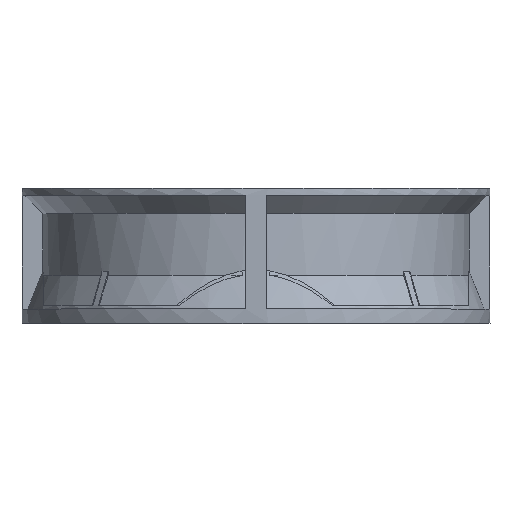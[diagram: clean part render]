
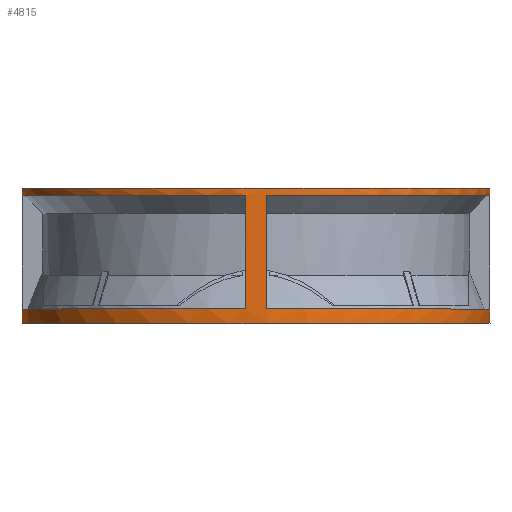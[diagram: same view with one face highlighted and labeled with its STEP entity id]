
A CAD part, top view. The second image highlights one B-rep face of the part: STEP entity #4815.
In plain terms, the highlighted cylindrical face has radius 66 mm (diameter 132 mm), a partial arc.
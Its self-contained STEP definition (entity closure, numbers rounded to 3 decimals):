
#136=CARTESIAN_POINT('',(0.,38.,0.));
#137=DIRECTION('',(0.,-1.,0.));
#138=DIRECTION('',(-0.506,0.,-0.863));
#139=AXIS2_PLACEMENT_3D('',#136,#137,#138);
#338=CARTESIAN_POINT('',(0.,0.,0.));
#339=DIRECTION('',(0.,1.,0.));
#340=DIRECTION('',(-0.572,0.,-0.821));
#341=AXIS2_PLACEMENT_3D('',#338,#339,#340);
#1009=CARTESIAN_POINT('',(0.,4.,0.));
#1010=DIRECTION('',(0.,-1.,0.));
#1011=DIRECTION('',(0.999,0.,0.045));
#1012=AXIS2_PLACEMENT_3D('',#1009,#1010,#1011);
#1023=DIRECTION('',(0.,1.,0.));
#1024=VECTOR('',#1023,32.);
#1025=CARTESIAN_POINT('',(65.932,4.,3.));
#1026=LINE('',#1025,#1024);
#1027=DIRECTION('',(0.,-1.,0.));
#1028=VECTOR('',#1027,32.);
#1029=CARTESIAN_POINT('',(3.,36.,65.932));
#1030=LINE('',#1029,#1028);
#1031=DIRECTION('',(0.,-1.,0.));
#1032=VECTOR('',#1031,32.);
#1033=CARTESIAN_POINT('',(-65.932,36.,3.));
#1034=LINE('',#1033,#1032);
#1035=DIRECTION('',(0.,1.,0.));
#1036=VECTOR('',#1035,32.);
#1037=CARTESIAN_POINT('',(-3.,4.,65.932));
#1038=LINE('',#1037,#1036);
#1039=DIRECTION('',(0.,-1.,0.));
#1040=VECTOR('',#1039,32.);
#1041=CARTESIAN_POINT('',(65.932,36.,-3.));
#1042=LINE('',#1041,#1040);
#1043=DIRECTION('',(0.,1.,0.));
#1044=VECTOR('',#1043,32.);
#1045=CARTESIAN_POINT('',(3.,4.,-65.932));
#1046=LINE('',#1045,#1044);
#1047=CARTESIAN_POINT('',(-33.384,2.631,
-56.934));
#1048=CARTESIAN_POINT('',(-33.245,2.623,
-57.016));
#1049=CARTESIAN_POINT('',(-32.992,2.551,
-57.163));
#1050=CARTESIAN_POINT('',(-32.656,2.277,
-57.355));
#1051=CARTESIAN_POINT('',(-32.451,1.902,
-57.471));
#1052=CARTESIAN_POINT('',(-32.38,1.477,
-57.511));
#1053=CARTESIAN_POINT('',(-32.454,1.045,
-57.469));
#1054=CARTESIAN_POINT('',(-32.664,0.671,
-57.351));
#1055=CARTESIAN_POINT('',(-32.994,0.406,
-57.162));
#1056=CARTESIAN_POINT('',(-33.246,0.334,
-57.015));
#1057=CARTESIAN_POINT('',(-33.384,0.326,
-56.934));
#1059=DIRECTION('',(0.,-1.,0.));
#1060=VECTOR('',#1059,0.326);
#1061=CARTESIAN_POINT('',(-33.384,0.326,
-56.934));
#1062=LINE('',#1061,#1060);
#1063=DIRECTION('',(0.,1.,0.));
#1064=VECTOR('',#1063,32.);
#1065=CARTESIAN_POINT('',(-65.932,4.,-3.));
#1066=LINE('',#1065,#1064);
#1067=DIRECTION('',(0.,1.,0.));
#1068=VECTOR('',#1067,2.);
#1069=CARTESIAN_POINT('',(-37.726,36.,-54.155));
#1070=LINE('',#1069,#1068);
#1071=DIRECTION('',(0.,-1.,0.));
#1072=VECTOR('',#1071,32.);
#1073=CARTESIAN_POINT('',(-3.,36.,-65.932));
#1074=LINE('',#1073,#1072);
#1075=DIRECTION('',(0.,-1.,0.));
#1076=VECTOR('',#1075,1.369);
#1077=CARTESIAN_POINT('',(-33.384,4.,-56.934));
#1078=LINE('',#1077,#1076);
#1084=CARTESIAN_POINT('',(0.,36.,0.));
#1085=DIRECTION('',(0.,1.,0.));
#1086=DIRECTION('',(0.045,0.,0.999));
#1087=AXIS2_PLACEMENT_3D('',#1084,#1085,#1086);
#1089=CARTESIAN_POINT('',(0.,36.,0.));
#1090=DIRECTION('',(0.,1.,0.));
#1091=DIRECTION('',(-0.999,0.,0.045));
#1092=AXIS2_PLACEMENT_3D('',#1089,#1090,#1091);
#1310=CARTESIAN_POINT('',(0.,4.,0.));
#1311=DIRECTION('',(0.,-1.,0.));
#1312=DIRECTION('',(-0.045,0.,0.999));
#1313=AXIS2_PLACEMENT_3D('',#1310,#1311,#1312);
#1315=CARTESIAN_POINT('',(0.,36.,0.));
#1316=DIRECTION('',(0.,1.,0.));
#1317=DIRECTION('',(0.999,0.,-0.045));
#1318=AXIS2_PLACEMENT_3D('',#1315,#1316,#1317);
#1536=CARTESIAN_POINT('',(0.,4.,0.));
#1537=DIRECTION('',(0.,-1.,0.));
#1538=DIRECTION('',(0.045,0.,-0.999));
#1539=AXIS2_PLACEMENT_3D('',#1536,#1537,#1538);
#1545=CARTESIAN_POINT('',(-33.384,0.326,
-56.934));
#1567=CARTESIAN_POINT('',(-33.384,2.631,
-56.934));
#1625=CARTESIAN_POINT('',(0.,4.,0.));
#1626=DIRECTION('',(0.,-1.,0.));
#1627=DIRECTION('',(-0.506,0.,-0.863));
#1628=AXIS2_PLACEMENT_3D('',#1625,#1626,#1627);
#1989=CARTESIAN_POINT('',(0.,36.,0.));
#1990=DIRECTION('',(0.,1.,0.));
#1991=DIRECTION('',(-0.045,0.,-0.999));
#1992=AXIS2_PLACEMENT_3D('',#1989,#1990,#1991);
#1994=DIRECTION('',(0.,1.,0.));
#1995=VECTOR('',#1994,2.);
#1996=CARTESIAN_POINT('',(-33.384,36.,-56.934));
#1997=LINE('',#1996,#1995);
#2019=CARTESIAN_POINT('',(0.,36.,0.));
#2020=DIRECTION('',(0.,1.,0.));
#2021=DIRECTION('',(-0.572,0.,-0.821));
#2022=AXIS2_PLACEMENT_3D('',#2019,#2020,#2021);
#2051=CARTESIAN_POINT('',(0.,4.,0.));
#2052=DIRECTION('',(0.,-1.,0.));
#2053=DIRECTION('',(-0.999,0.,-0.045));
#2054=AXIS2_PLACEMENT_3D('',#2051,#2052,#2053);
#2074=DIRECTION('',(0.,-1.,0.));
#2075=VECTOR('',#2074,4.);
#2076=CARTESIAN_POINT('',(-37.726,4.,-54.155));
#2077=LINE('',#2076,#2075);
#2901=CARTESIAN_POINT('',(-33.384,38.,-56.934));
#2903=VERTEX_POINT('',#2901);
#2904=CARTESIAN_POINT('',(-37.726,38.,-54.155));
#2906=VERTEX_POINT('',#2904);
#2944=CARTESIAN_POINT('',(-33.384,36.,-56.934));
#2946=VERTEX_POINT('',#2944);
#2952=CARTESIAN_POINT('',(-3.,36.,-65.932));
#2953=VERTEX_POINT('',#2952);
#2958=CARTESIAN_POINT('',(-37.726,0.,
-54.155));
#2959=VERTEX_POINT('',#2958);
#2960=CARTESIAN_POINT('',(-33.384,0.,
-56.934));
#2962=VERTEX_POINT('',#2960);
#3105=CARTESIAN_POINT('',(-33.384,4.,-56.934));
#3106=VERTEX_POINT('',#3105);
#3107=CARTESIAN_POINT('',(-3.,4.,-65.932));
#3108=VERTEX_POINT('',#3107);
#3113=CARTESIAN_POINT('',(-37.726,4.,-54.155));
#3114=VERTEX_POINT('',#3113);
#3115=CARTESIAN_POINT('',(-65.932,4.,-3.));
#3116=VERTEX_POINT('',#3115);
#3117=CARTESIAN_POINT('',(-65.932,36.,-3.));
#3118=VERTEX_POINT('',#3117);
#3119=CARTESIAN_POINT('',(-37.726,36.,-54.155));
#3120=VERTEX_POINT('',#3119);
#3121=CARTESIAN_POINT('',(65.932,4.,3.));
#3122=CARTESIAN_POINT('',(3.,4.,65.932));
#3123=VERTEX_POINT('',#3121);
#3124=VERTEX_POINT('',#3122);
#3125=CARTESIAN_POINT('',(65.932,36.,3.));
#3126=VERTEX_POINT('',#3125);
#3127=CARTESIAN_POINT('',(3.,36.,65.932));
#3128=VERTEX_POINT('',#3127);
#3129=CARTESIAN_POINT('',(-65.932,36.,3.));
#3130=CARTESIAN_POINT('',(-3.,36.,65.932));
#3131=VERTEX_POINT('',#3129);
#3132=VERTEX_POINT('',#3130);
#3133=CARTESIAN_POINT('',(-65.932,4.,3.));
#3134=VERTEX_POINT('',#3133);
#3135=CARTESIAN_POINT('',(-3.,4.,65.932));
#3136=VERTEX_POINT('',#3135);
#3137=CARTESIAN_POINT('',(65.932,36.,-3.));
#3138=CARTESIAN_POINT('',(3.,36.,-65.932));
#3139=VERTEX_POINT('',#3137);
#3140=VERTEX_POINT('',#3138);
#3141=CARTESIAN_POINT('',(65.932,4.,-3.));
#3142=VERTEX_POINT('',#3141);
#3143=CARTESIAN_POINT('',(3.,4.,-65.932));
#3144=VERTEX_POINT('',#3143);
#3551=VERTEX_POINT('',#1545);
#3554=VERTEX_POINT('',#1567);
#4755=CARTESIAN_POINT('',(0.,38.,0.));
#4756=DIRECTION('',(0.,1.,0.));
#4757=DIRECTION('',(1.,0.,0.));
#4758=AXIS2_PLACEMENT_3D('',#4755,#4756,#4757);
#4759=CYLINDRICAL_SURFACE('',#4758,66.);
#4761=ORIENTED_EDGE('',*,*,#4760,.T.);
#4763=ORIENTED_EDGE('',*,*,#4762,.T.);
#4764=ORIENTED_EDGE('',*,*,#3908,.F.);
#4766=ORIENTED_EDGE('',*,*,#4765,.F.);
#4768=ORIENTED_EDGE('',*,*,#4767,.F.);
#4770=ORIENTED_EDGE('',*,*,#4769,.T.);
#4772=ORIENTED_EDGE('',*,*,#4771,.F.);
#4774=ORIENTED_EDGE('',*,*,#4773,.T.);
#4775=ORIENTED_EDGE('',*,*,#3592,.F.);
#4777=ORIENTED_EDGE('',*,*,#4776,.F.);
#4779=ORIENTED_EDGE('',*,*,#4778,.F.);
#4781=ORIENTED_EDGE('',*,*,#4780,.T.);
#4783=ORIENTED_EDGE('',*,*,#4782,.F.);
#4785=ORIENTED_EDGE('',*,*,#4784,.T.);
#4786=EDGE_LOOP('',(#4761,#4763,#4764,#4766,#4768,#4770,#4772,#4774,#4775,#4777,
#4779,#4781,#4783,#4785));
#4787=FACE_OUTER_BOUND('',#4786,.F.);
#4789=ORIENTED_EDGE('',*,*,#4788,.F.);
#4791=ORIENTED_EDGE('',*,*,#4790,.T.);
#4793=ORIENTED_EDGE('',*,*,#4792,.F.);
#4795=ORIENTED_EDGE('',*,*,#4794,.T.);
#4796=EDGE_LOOP('',(#4789,#4791,#4793,#4795));
#4797=FACE_BOUND('',#4796,.F.);
#4799=ORIENTED_EDGE('',*,*,#4798,.F.);
#4801=ORIENTED_EDGE('',*,*,#4800,.T.);
#4803=ORIENTED_EDGE('',*,*,#4802,.F.);
#4805=ORIENTED_EDGE('',*,*,#4804,.T.);
#4806=EDGE_LOOP('',(#4799,#4801,#4803,#4805));
#4807=FACE_BOUND('',#4806,.F.);
#4808=ORIENTED_EDGE('',*,*,#4748,.F.);
#4809=ORIENTED_EDGE('',*,*,#4568,.T.);
#4811=ORIENTED_EDGE('',*,*,#4810,.F.);
#4812=ORIENTED_EDGE('',*,*,#4601,.T.);
#4813=EDGE_LOOP('',(#4808,#4809,#4811,#4812));
#4814=FACE_BOUND('',#4813,.F.);
#4815=ADVANCED_FACE('',(#4787,#4797,#4807,#4814),#4759,.T.);
#140=CIRCLE('',#139,66.);
#342=CIRCLE('',#341,66.);
#1013=CIRCLE('',#1012,66.);
#1058=B_SPLINE_CURVE_WITH_KNOTS('',3,(#1047,#1048,#1049,#1050,#1051,#1052,#1053,
#1054,#1055,#1056,#1057),.UNSPECIFIED.,.F.,.F.,(4,1,1,1,1,1,1,1,4),(0.,
0.125,0.25,0.375,0.5,0.625,0.75,0.875,1.),.UNSPECIFIED.);
#1088=CIRCLE('',#1087,66.);
#1093=CIRCLE('',#1092,66.);
#1314=CIRCLE('',#1313,66.);
#1319=CIRCLE('',#1318,66.);
#1540=CIRCLE('',#1539,66.);
#1629=CIRCLE('',#1628,66.);
#1993=CIRCLE('',#1992,66.);
#2023=CIRCLE('',#2022,66.);
#2055=CIRCLE('',#2054,66.);
#3592=EDGE_CURVE('',#2903,#2906,#140,.T.);
#3908=EDGE_CURVE('',#2959,#2962,#342,.T.);
#4568=EDGE_CURVE('',#3123,#3126,#1026,.T.);
#4601=EDGE_CURVE('',#3128,#3124,#1030,.T.);
#4748=EDGE_CURVE('',#3123,#3124,#1013,.T.);
#4760=EDGE_CURVE('',#3554,#3551,#1058,.T.);
#4762=EDGE_CURVE('',#3551,#2962,#1062,.T.);
#4765=EDGE_CURVE('',#3114,#2959,#2077,.T.);
#4767=EDGE_CURVE('',#3116,#3114,#2055,.T.);
#4769=EDGE_CURVE('',#3116,#3118,#1066,.T.);
#4771=EDGE_CURVE('',#3120,#3118,#2023,.T.);
#4773=EDGE_CURVE('',#3120,#2906,#1070,.T.);
#4776=EDGE_CURVE('',#2946,#2903,#1997,.T.);
#4778=EDGE_CURVE('',#2953,#2946,#1993,.T.);
#4780=EDGE_CURVE('',#2953,#3108,#1074,.T.);
#4782=EDGE_CURVE('',#3106,#3108,#1629,.T.);
#4784=EDGE_CURVE('',#3106,#3554,#1078,.T.);
#4788=EDGE_CURVE('',#3131,#3132,#1093,.T.);
#4790=EDGE_CURVE('',#3131,#3134,#1034,.T.);
#4792=EDGE_CURVE('',#3136,#3134,#1314,.T.);
#4794=EDGE_CURVE('',#3136,#3132,#1038,.T.);
#4798=EDGE_CURVE('',#3139,#3140,#1319,.T.);
#4800=EDGE_CURVE('',#3139,#3142,#1042,.T.);
#4802=EDGE_CURVE('',#3144,#3142,#1540,.T.);
#4804=EDGE_CURVE('',#3144,#3140,#1046,.T.);
#4810=EDGE_CURVE('',#3128,#3126,#1088,.T.);
